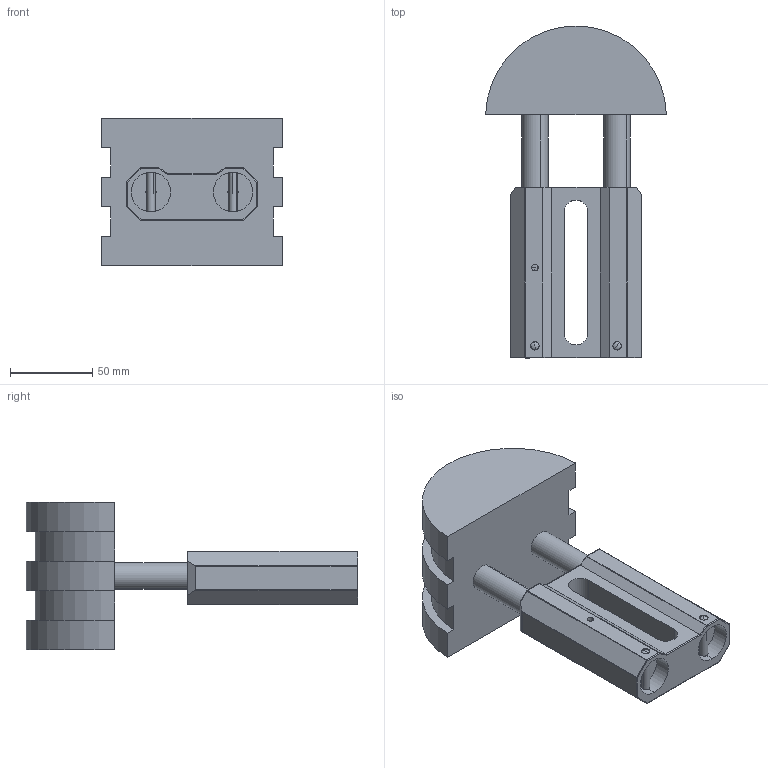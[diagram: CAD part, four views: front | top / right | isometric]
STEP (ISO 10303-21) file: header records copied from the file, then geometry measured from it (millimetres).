
FILE_DESCRIPTION (( 'STEP AP203' ), '1' );
FILE_NAME ('ASGO3 1_1-4T cod. 94103103N.STEP', '2018-05-14T11:01:00', ( '' ), ( '' ), 'SwSTEP 2.0', 'SolidWorks 2016', '' );
FILE_SCHEMA (( 'CONFIG_CONTROL_DESIGN' ));
Length unit declared in the file: millimetre
Products named in the file (7): AS 3-Base; SPINA ISO 8745-M5x32-St_SPINA ISO 8745-M5x32-St; Boccola CP 16X18X20; ASGO3 ISO 20B-3; ASGO3 1_1-4T cod. 94103103N; ASGE3 PERNO comm.; rondella 24X6.3X2 (CONTROSPINA)
Assembly tree (10 placements, depth 2):
  ASGO3 1_1-4T cod. 94103103N
    AS 3-Base
    Boccola CP 16X18X20  x2
    ASGE3 PERNO comm.  x2
    rondella 24X6.3X2 (CONTROSPINA)  x2
    SPINA ISO 8745-M5x32-St_SPINA ISO 8745-M5x32-St  x2
    ASGO3 ISO 20B-3
Bounding box: 110 x 202 x 90 mm (x, y, z)
Volume: 559890.4 mm3; surface area: 103235 mm2
Topology: 10 solids, 10 shells, 194 faces, 467 edges, 276 vertices
Faces by surface type: cylinder 99, plane 57, sphere 24, cone 12, torus 2
Entity records: 5635 total; most frequent: CARTESIAN_POINT 1138, DIRECTION 820, ORIENTED_EDGE 736, EDGE_CURVE 368, AXIS2_PLACEMENT_3D 328, VERTEX_POINT 224, EDGE_LOOP 178, LINE 164
